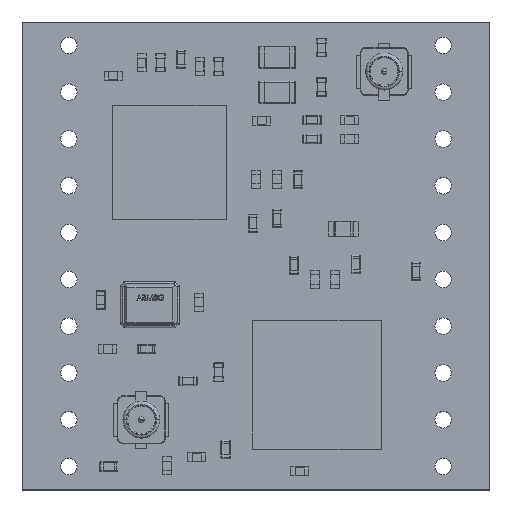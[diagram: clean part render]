
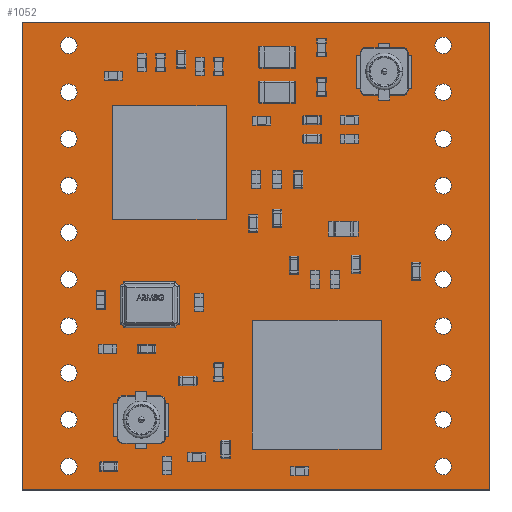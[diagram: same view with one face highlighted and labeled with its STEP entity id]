
A CAD part, top view. The second image highlights one B-rep face of the part: STEP entity #1052.
In plain terms, the highlighted planar face has unit normal (0, 0, 1).
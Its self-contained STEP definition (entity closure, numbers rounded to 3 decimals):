
#203 = VERTEX_POINT('',#204);
#204 = CARTESIAN_POINT('',(0.,0.,0.977));
#210 = EDGE_CURVE('',#203,#211,#213,.T.);
#211 = VERTEX_POINT('',#212);
#212 = CARTESIAN_POINT('',(25.4,0.,0.977));
#213 = LINE('',#214,#215);
#214 = CARTESIAN_POINT('',(0.,0.,0.977));
#215 = VECTOR('',#216,1.);
#216 = DIRECTION('',(1.,0.,0.));
#241 = EDGE_CURVE('',#211,#242,#244,.T.);
#242 = VERTEX_POINT('',#243);
#243 = CARTESIAN_POINT('',(25.4,25.4,0.977));
#244 = LINE('',#245,#246);
#245 = CARTESIAN_POINT('',(25.4,0.,0.977));
#246 = VECTOR('',#247,1.);
#247 = DIRECTION('',(0.,1.,0.));
#272 = EDGE_CURVE('',#242,#273,#275,.T.);
#273 = VERTEX_POINT('',#274);
#274 = CARTESIAN_POINT('',(0.,25.4,0.977));
#275 = LINE('',#276,#277);
#276 = CARTESIAN_POINT('',(25.4,25.4,0.977));
#277 = VECTOR('',#278,1.);
#278 = DIRECTION('',(-1.,0.,0.));
#303 = EDGE_CURVE('',#273,#203,#304,.T.);
#304 = LINE('',#305,#306);
#305 = CARTESIAN_POINT('',(0.,25.4,0.977));
#306 = VECTOR('',#307,1.);
#307 = DIRECTION('',(0.,-1.,0.));
#327 = VERTEX_POINT('',#328);
#328 = CARTESIAN_POINT('',(2.99,3.81,0.977));
#334 = EDGE_CURVE('',#327,#327,#335,.T.);
#335 = CIRCLE('',#336,0.45);
#336 = AXIS2_PLACEMENT_3D('',#337,#338,#339);
#337 = CARTESIAN_POINT('',(2.54,3.81,0.977));
#338 = DIRECTION('',(0.,0.,1.));
#339 = DIRECTION('',(1.,0.,0.));
#360 = VERTEX_POINT('',#361);
#361 = CARTESIAN_POINT('',(2.99,1.27,0.977));
#367 = EDGE_CURVE('',#360,#360,#368,.T.);
#368 = CIRCLE('',#369,0.45);
#369 = AXIS2_PLACEMENT_3D('',#370,#371,#372);
#370 = CARTESIAN_POINT('',(2.54,1.27,0.977));
#371 = DIRECTION('',(0.,0.,1.));
#372 = DIRECTION('',(1.,0.,0.));
#393 = VERTEX_POINT('',#394);
#394 = CARTESIAN_POINT('',(2.99,11.43,0.977));
#400 = EDGE_CURVE('',#393,#393,#401,.T.);
#401 = CIRCLE('',#402,0.45);
#402 = AXIS2_PLACEMENT_3D('',#403,#404,#405);
#403 = CARTESIAN_POINT('',(2.54,11.43,0.977));
#404 = DIRECTION('',(0.,0.,1.));
#405 = DIRECTION('',(1.,0.,0.));
#426 = VERTEX_POINT('',#427);
#427 = CARTESIAN_POINT('',(2.99,6.35,0.977));
#433 = EDGE_CURVE('',#426,#426,#434,.T.);
#434 = CIRCLE('',#435,0.45);
#435 = AXIS2_PLACEMENT_3D('',#436,#437,#438);
#436 = CARTESIAN_POINT('',(2.54,6.35,0.977));
#437 = DIRECTION('',(0.,0.,1.));
#438 = DIRECTION('',(1.,0.,0.));
#459 = VERTEX_POINT('',#460);
#460 = CARTESIAN_POINT('',(2.99,8.89,0.977));
#466 = EDGE_CURVE('',#459,#459,#467,.T.);
#467 = CIRCLE('',#468,0.45);
#468 = AXIS2_PLACEMENT_3D('',#469,#470,#471);
#469 = CARTESIAN_POINT('',(2.54,8.89,0.977));
#470 = DIRECTION('',(0.,0.,1.));
#471 = DIRECTION('',(1.,0.,0.));
#492 = VERTEX_POINT('',#493);
#493 = CARTESIAN_POINT('',(2.99,16.51,0.977));
#499 = EDGE_CURVE('',#492,#492,#500,.T.);
#500 = CIRCLE('',#501,0.45);
#501 = AXIS2_PLACEMENT_3D('',#502,#503,#504);
#502 = CARTESIAN_POINT('',(2.54,16.51,0.977));
#503 = DIRECTION('',(0.,0.,1.));
#504 = DIRECTION('',(1.,0.,0.));
#525 = VERTEX_POINT('',#526);
#526 = CARTESIAN_POINT('',(2.99,13.97,0.977));
#532 = EDGE_CURVE('',#525,#525,#533,.T.);
#533 = CIRCLE('',#534,0.45);
#534 = AXIS2_PLACEMENT_3D('',#535,#536,#537);
#535 = CARTESIAN_POINT('',(2.54,13.97,0.977));
#536 = DIRECTION('',(0.,0.,1.));
#537 = DIRECTION('',(1.,0.,0.));
#558 = VERTEX_POINT('',#559);
#559 = CARTESIAN_POINT('',(2.99,24.13,0.977));
#565 = EDGE_CURVE('',#558,#558,#566,.T.);
#566 = CIRCLE('',#567,0.45);
#567 = AXIS2_PLACEMENT_3D('',#568,#569,#570);
#568 = CARTESIAN_POINT('',(2.54,24.13,0.977));
#569 = DIRECTION('',(0.,0.,1.));
#570 = DIRECTION('',(1.,0.,0.));
#591 = VERTEX_POINT('',#592);
#592 = CARTESIAN_POINT('',(2.99,19.05,0.977));
#598 = EDGE_CURVE('',#591,#591,#599,.T.);
#599 = CIRCLE('',#600,0.45);
#600 = AXIS2_PLACEMENT_3D('',#601,#602,#603);
#601 = CARTESIAN_POINT('',(2.54,19.05,0.977));
#602 = DIRECTION('',(0.,0.,1.));
#603 = DIRECTION('',(1.,0.,0.));
#624 = VERTEX_POINT('',#625);
#625 = CARTESIAN_POINT('',(2.99,21.59,0.977));
#631 = EDGE_CURVE('',#624,#624,#632,.T.);
#632 = CIRCLE('',#633,0.45);
#633 = AXIS2_PLACEMENT_3D('',#634,#635,#636);
#634 = CARTESIAN_POINT('',(2.54,21.59,0.977));
#635 = DIRECTION('',(0.,0.,1.));
#636 = DIRECTION('',(1.,0.,0.));
#657 = VERTEX_POINT('',#658);
#658 = CARTESIAN_POINT('',(23.31,3.81,0.977));
#664 = EDGE_CURVE('',#657,#657,#665,.T.);
#665 = CIRCLE('',#666,0.45);
#666 = AXIS2_PLACEMENT_3D('',#667,#668,#669);
#667 = CARTESIAN_POINT('',(22.86,3.81,0.977));
#668 = DIRECTION('',(0.,0.,1.));
#669 = DIRECTION('',(1.,0.,0.));
#690 = VERTEX_POINT('',#691);
#691 = CARTESIAN_POINT('',(23.31,1.27,0.977));
#697 = EDGE_CURVE('',#690,#690,#698,.T.);
#698 = CIRCLE('',#699,0.45);
#699 = AXIS2_PLACEMENT_3D('',#700,#701,#702);
#700 = CARTESIAN_POINT('',(22.86,1.27,0.977));
#701 = DIRECTION('',(0.,0.,1.));
#702 = DIRECTION('',(1.,0.,0.));
#723 = VERTEX_POINT('',#724);
#724 = CARTESIAN_POINT('',(23.31,11.43,0.977));
#730 = EDGE_CURVE('',#723,#723,#731,.T.);
#731 = CIRCLE('',#732,0.45);
#732 = AXIS2_PLACEMENT_3D('',#733,#734,#735);
#733 = CARTESIAN_POINT('',(22.86,11.43,0.977));
#734 = DIRECTION('',(0.,0.,1.));
#735 = DIRECTION('',(1.,0.,0.));
#756 = VERTEX_POINT('',#757);
#757 = CARTESIAN_POINT('',(23.31,6.35,0.977));
#763 = EDGE_CURVE('',#756,#756,#764,.T.);
#764 = CIRCLE('',#765,0.45);
#765 = AXIS2_PLACEMENT_3D('',#766,#767,#768);
#766 = CARTESIAN_POINT('',(22.86,6.35,0.977));
#767 = DIRECTION('',(0.,0.,1.));
#768 = DIRECTION('',(1.,0.,0.));
#789 = VERTEX_POINT('',#790);
#790 = CARTESIAN_POINT('',(23.31,8.89,0.977));
#796 = EDGE_CURVE('',#789,#789,#797,.T.);
#797 = CIRCLE('',#798,0.45);
#798 = AXIS2_PLACEMENT_3D('',#799,#800,#801);
#799 = CARTESIAN_POINT('',(22.86,8.89,0.977));
#800 = DIRECTION('',(0.,0.,1.));
#801 = DIRECTION('',(1.,0.,0.));
#822 = VERTEX_POINT('',#823);
#823 = CARTESIAN_POINT('',(23.31,16.51,0.977));
#829 = EDGE_CURVE('',#822,#822,#830,.T.);
#830 = CIRCLE('',#831,0.45);
#831 = AXIS2_PLACEMENT_3D('',#832,#833,#834);
#832 = CARTESIAN_POINT('',(22.86,16.51,0.977));
#833 = DIRECTION('',(0.,0.,1.));
#834 = DIRECTION('',(1.,0.,0.));
#855 = VERTEX_POINT('',#856);
#856 = CARTESIAN_POINT('',(23.31,13.97,0.977));
#862 = EDGE_CURVE('',#855,#855,#863,.T.);
#863 = CIRCLE('',#864,0.45);
#864 = AXIS2_PLACEMENT_3D('',#865,#866,#867);
#865 = CARTESIAN_POINT('',(22.86,13.97,0.977));
#866 = DIRECTION('',(0.,0.,1.));
#867 = DIRECTION('',(1.,0.,0.));
#888 = VERTEX_POINT('',#889);
#889 = CARTESIAN_POINT('',(23.31,24.13,0.977));
#895 = EDGE_CURVE('',#888,#888,#896,.T.);
#896 = CIRCLE('',#897,0.45);
#897 = AXIS2_PLACEMENT_3D('',#898,#899,#900);
#898 = CARTESIAN_POINT('',(22.86,24.13,0.977));
#899 = DIRECTION('',(0.,0.,1.));
#900 = DIRECTION('',(1.,0.,0.));
#921 = VERTEX_POINT('',#922);
#922 = CARTESIAN_POINT('',(23.31,19.05,0.977));
#928 = EDGE_CURVE('',#921,#921,#929,.T.);
#929 = CIRCLE('',#930,0.45);
#930 = AXIS2_PLACEMENT_3D('',#931,#932,#933);
#931 = CARTESIAN_POINT('',(22.86,19.05,0.977));
#932 = DIRECTION('',(0.,0.,1.));
#933 = DIRECTION('',(1.,0.,0.));
#954 = VERTEX_POINT('',#955);
#955 = CARTESIAN_POINT('',(23.31,21.59,0.977));
#961 = EDGE_CURVE('',#954,#954,#962,.T.);
#962 = CIRCLE('',#963,0.45);
#963 = AXIS2_PLACEMENT_3D('',#964,#965,#966);
#964 = CARTESIAN_POINT('',(22.86,21.59,0.977));
#965 = DIRECTION('',(0.,0.,1.));
#966 = DIRECTION('',(1.,0.,0.));
#1052 = ADVANCED_FACE('',(#1053,#1059,#1062,#1065,#1068,#1071,#1074,
    #1077,#1080,#1083,#1086,#1089,#1092,#1095,#1098,#1101,#1104,#1107,
    #1110,#1113,#1116),#1119,.F.);
#1053 = FACE_BOUND('',#1054,.T.);
#1054 = EDGE_LOOP('',(#1055,#1056,#1057,#1058));
#1055 = ORIENTED_EDGE('',*,*,#210,.T.);
#1056 = ORIENTED_EDGE('',*,*,#241,.T.);
#1057 = ORIENTED_EDGE('',*,*,#272,.T.);
#1058 = ORIENTED_EDGE('',*,*,#303,.T.);
#1059 = FACE_BOUND('',#1060,.F.);
#1060 = EDGE_LOOP('',(#1061));
#1061 = ORIENTED_EDGE('',*,*,#334,.T.);
#1062 = FACE_BOUND('',#1063,.F.);
#1063 = EDGE_LOOP('',(#1064));
#1064 = ORIENTED_EDGE('',*,*,#367,.T.);
#1065 = FACE_BOUND('',#1066,.F.);
#1066 = EDGE_LOOP('',(#1067));
#1067 = ORIENTED_EDGE('',*,*,#400,.T.);
#1068 = FACE_BOUND('',#1069,.F.);
#1069 = EDGE_LOOP('',(#1070));
#1070 = ORIENTED_EDGE('',*,*,#433,.T.);
#1071 = FACE_BOUND('',#1072,.F.);
#1072 = EDGE_LOOP('',(#1073));
#1073 = ORIENTED_EDGE('',*,*,#466,.T.);
#1074 = FACE_BOUND('',#1075,.F.);
#1075 = EDGE_LOOP('',(#1076));
#1076 = ORIENTED_EDGE('',*,*,#499,.T.);
#1077 = FACE_BOUND('',#1078,.F.);
#1078 = EDGE_LOOP('',(#1079));
#1079 = ORIENTED_EDGE('',*,*,#532,.T.);
#1080 = FACE_BOUND('',#1081,.F.);
#1081 = EDGE_LOOP('',(#1082));
#1082 = ORIENTED_EDGE('',*,*,#565,.T.);
#1083 = FACE_BOUND('',#1084,.F.);
#1084 = EDGE_LOOP('',(#1085));
#1085 = ORIENTED_EDGE('',*,*,#598,.T.);
#1086 = FACE_BOUND('',#1087,.F.);
#1087 = EDGE_LOOP('',(#1088));
#1088 = ORIENTED_EDGE('',*,*,#631,.T.);
#1089 = FACE_BOUND('',#1090,.F.);
#1090 = EDGE_LOOP('',(#1091));
#1091 = ORIENTED_EDGE('',*,*,#664,.T.);
#1092 = FACE_BOUND('',#1093,.F.);
#1093 = EDGE_LOOP('',(#1094));
#1094 = ORIENTED_EDGE('',*,*,#697,.T.);
#1095 = FACE_BOUND('',#1096,.F.);
#1096 = EDGE_LOOP('',(#1097));
#1097 = ORIENTED_EDGE('',*,*,#730,.T.);
#1098 = FACE_BOUND('',#1099,.F.);
#1099 = EDGE_LOOP('',(#1100));
#1100 = ORIENTED_EDGE('',*,*,#763,.T.);
#1101 = FACE_BOUND('',#1102,.F.);
#1102 = EDGE_LOOP('',(#1103));
#1103 = ORIENTED_EDGE('',*,*,#796,.T.);
#1104 = FACE_BOUND('',#1105,.F.);
#1105 = EDGE_LOOP('',(#1106));
#1106 = ORIENTED_EDGE('',*,*,#829,.T.);
#1107 = FACE_BOUND('',#1108,.F.);
#1108 = EDGE_LOOP('',(#1109));
#1109 = ORIENTED_EDGE('',*,*,#862,.T.);
#1110 = FACE_BOUND('',#1111,.F.);
#1111 = EDGE_LOOP('',(#1112));
#1112 = ORIENTED_EDGE('',*,*,#895,.T.);
#1113 = FACE_BOUND('',#1114,.F.);
#1114 = EDGE_LOOP('',(#1115));
#1115 = ORIENTED_EDGE('',*,*,#928,.T.);
#1116 = FACE_BOUND('',#1117,.F.);
#1117 = EDGE_LOOP('',(#1118));
#1118 = ORIENTED_EDGE('',*,*,#961,.T.);
#1119 = PLANE('',#1120);
#1120 = AXIS2_PLACEMENT_3D('',#1121,#1122,#1123);
#1121 = CARTESIAN_POINT('',(0.,0.,0.977));
#1122 = DIRECTION('',(0.,0.,-1.));
#1123 = DIRECTION('',(-1.,0.,0.));
